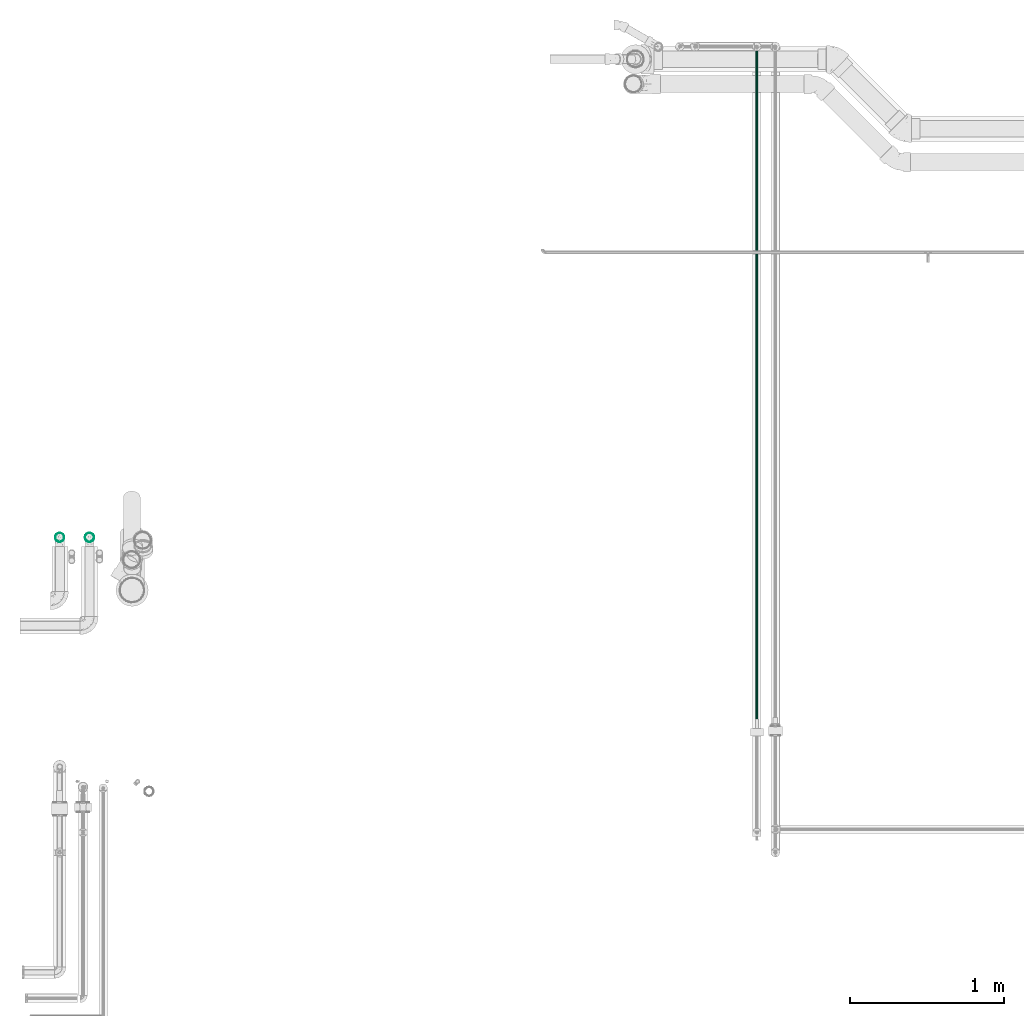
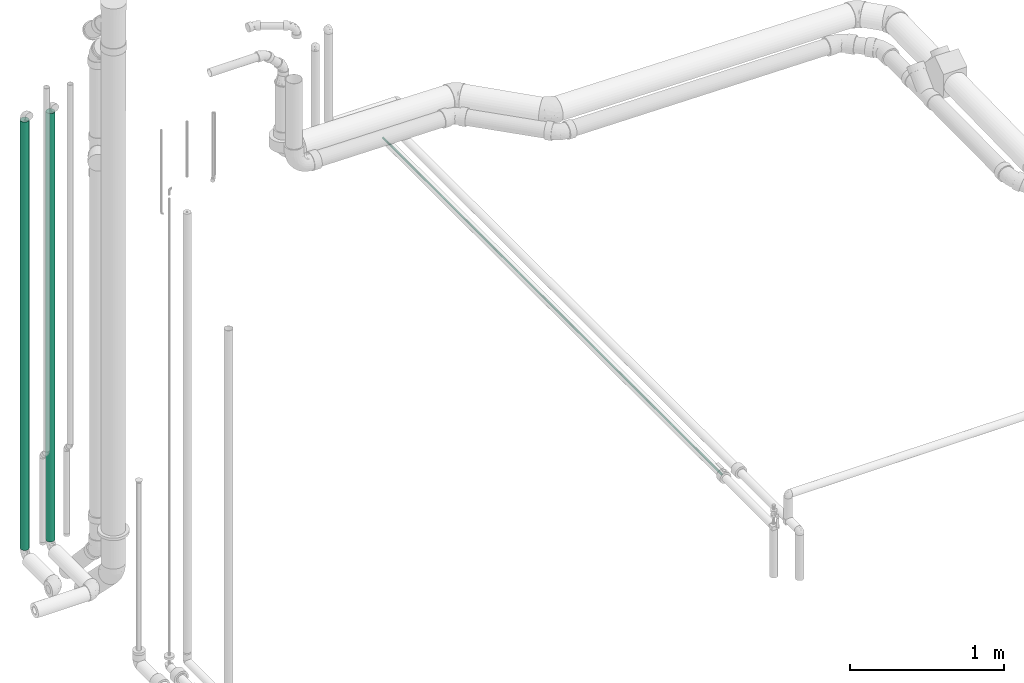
# One storey, part 23 of 78: 3 flow segments.
"""IFC2X3 building model written with IfcOpenShell, lengths in millimetres."""

from ifc_helpers import new_model, entity, si_unit, converted_unit, derived_unit, direction, frame, origin_with_axes, origin_2d_with_axis, place, context, subcontext, project, spatial, hollow_circle, extrude, source, transform, mapped, type_object, element, save


model = new_model("IFC2X3")

# Units and contexts
model_context = context("Model", 3, precision=0.01, world=frame((0.0, 4.29681676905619e-09, 0.0)), true_north=direction((4.01073788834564e-13, 1.0)))
plan_context = context("Plan", 3, precision=0.01, world=frame((0.0, 4.29681676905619e-09, 0.0)), true_north=direction((4.01073788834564e-13, 1.0)))
body_context = subcontext(model_context, "Body", "Model", "MODEL_VIEW")
ifc_project = project(units=[converted_unit("PLANEANGLEUNIT", "DEGREE", entity("IfcPositiveLengthMeasure", 0.0174532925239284), si_unit("PLANEANGLEUNIT", "RADIAN"), dimensions=[0, 0, 0, 0, 0, 0, 0]), si_unit("AREAUNIT", "SQUARE_METRE"), si_unit("LENGTHUNIT", "METRE", prefix="MILLI"), si_unit("MASSUNIT", "GRAM", prefix="KILO"), si_unit("POWERUNIT", "WATT"), si_unit("PRESSUREUNIT", "PASCAL"), si_unit("FORCEUNIT", "NEWTON", prefix="KILO"), si_unit("ELECTRICVOLTAGEUNIT", "VOLT"), si_unit("ELECTRICCURRENTUNIT", "AMPERE"), si_unit("THERMODYNAMICTEMPERATUREUNIT", "DEGREE_CELSIUS"), si_unit("TIMEUNIT", "SECOND"), si_unit("VOLUMEUNIT", "CUBIC_METRE"), derived_unit("LINEARVELOCITYUNIT", [(si_unit("LENGTHUNIT", "METRE"), 1), (si_unit("TIMEUNIT", "SECOND"), -1)]), derived_unit("VOLUMETRICFLOWRATEUNIT", [(si_unit("VOLUMEUNIT", "CUBIC_METRE"), 1), (si_unit("TIMEUNIT", "SECOND"), -1)]), derived_unit("THERMALTRANSMITTANCEUNIT", [(si_unit("POWERUNIT", "WATT"), 1), (si_unit("THERMODYNAMICTEMPERATUREUNIT", "KELVIN"), -1), (si_unit("AREAUNIT", "SQUARE_METRE"), -1)]), derived_unit("SOUNDPRESSUREUNIT", [(si_unit("PRESSUREUNIT", "PASCAL"), 1)])], contexts=[model_context, plan_context])

# Site, building, storey
site_placement = place(None, frame((0.0, -4.29681676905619e-09, 0.0), z_axis=(0.0, 0.0, 1.0), x_axis=(1.0, 0.0, 0.0)))
site = spatial("IfcSite", under=ifc_project, at=site_placement, Name="ENGM", CompositionType="ELEMENT")
building_placement = place(site_placement, frame((0.0, 4.29681676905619e-09, 0.0), z_axis=(0.0, 0.0, 1.0), x_axis=(1.0, 0.0, 0.0)))
building = spatial("IfcBuilding", under=site, at=building_placement, Name="TH", CompositionType="ELEMENT")
storey_placement = place(building_placement, frame((0.0, 0.0, 205200.0), z_axis=(0.0, 0.0, 1.0), x_axis=(1.0, 0.0, 0.0)))
storey = spatial("IfcBuildingStorey", under=building, at=storey_placement, Name="Nivå D + 1,2 m", CompositionType="ELEMENT", Elevation=205200.0)

# Flow segments
pipe_segment_type_1 = type_object("IfcPipeSegmentType", Name="Stålrør normaltykke", PredefinedType="RIGIDSEGMENT")
shared_shape_1 = source(origin_with_axes(), body_context, "Body", "SweptSolid", [
    extrude(hollow_circle(Radius=30.1, WallThickness=2.0, at=origin_2d_with_axis()), frame((0.0, 0.0, 0.0), z_axis=(1.0, 0.0, 0.0), x_axis=(0.0, 1.0, 0.0)), (0.0, 0.0, 1.0), 3400.2),
])
for number, where, z_axis, x_axis in (
    (1, (895562.81931, 480167.90014, 4460.39999999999), (0.0, 1.0, 0.0), (0.0, 0.0, 1.0)),
    (2, (895369.84063, 480167.90014, 4460.39999999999), (0.0, 1.0, 0.0), (0.0, 0.0, 1.0)),
):
    element("IfcFlowSegment", number, at=place(storey_placement, frame(where, z_axis=z_axis, x_axis=x_axis)), inside=storey, type_object=pipe_segment_type_1, Name="Stålrør normaltykke", context=body_context, shape_type="MappedRepresentation", body=[
        mapped(shared_shape_1, transform((0.0, 0.0, 0.0), scale=1.0)),
    ])
pipe_segment_type_2 = type_object("IfcPipeSegmentType", Name="Kobberrør", PredefinedType="RIGIDSEGMENT")
shared_shape_2 = source(origin_with_axes(), body_context, "Body", "SweptSolid", [
    extrude(hollow_circle(Radius=7.5, WallThickness=2.0, at=origin_2d_with_axis()), frame((0.0, 0.0, 0.0), z_axis=(1.0, 0.0, 0.0), x_axis=(0.0, 1.0, 0.0)), (0.0, 0.0, 1.0), 4407.7),
])
flow_segment_placement = place(storey_placement, frame((899890.50163, 483336.12945, 4212.79203000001), z_axis=(0.0, 0.0, 1.0), x_axis=(0.0, -1.0, 0.0)))
element("IfcFlowSegment", 3, at=flow_segment_placement, inside=storey, type_object=pipe_segment_type_2, Name="Kobberrør", context=body_context, shape_type="MappedRepresentation", body=[
    mapped(shared_shape_2, transform((0.0, 0.0, 0.0), scale=1.0)),
])

save(model, "model.ifc")
